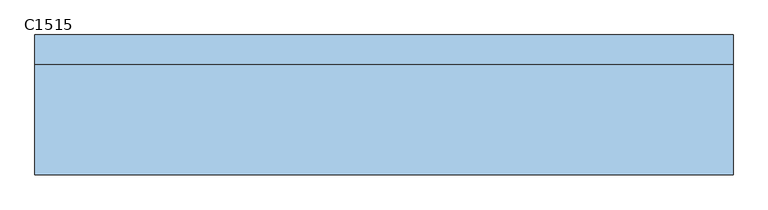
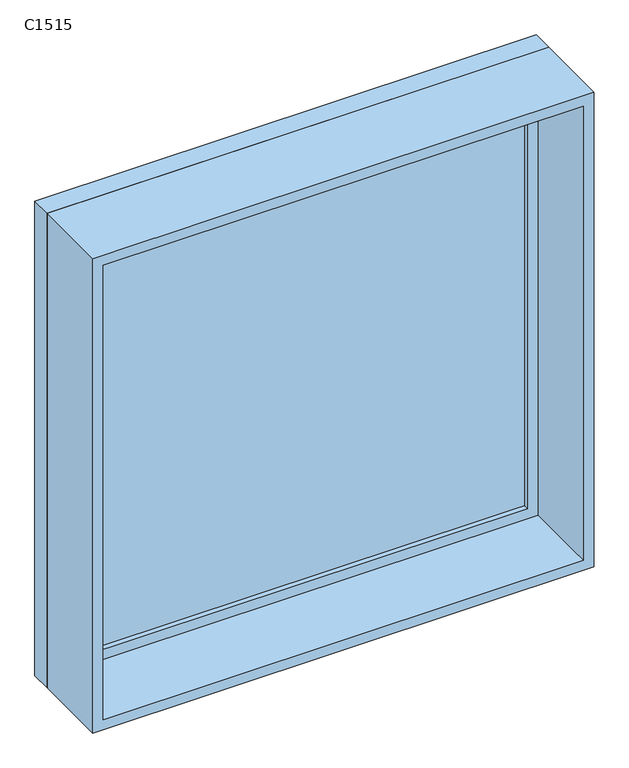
"""IFC4 building model written with IfcOpenShell, lengths in millimetres: window geometry, 固定窗 : C1515."""

from ifc_helpers import new_model, si_unit, frame, origin, place, context, project, spatial, polyline, outline, extrude, source, transform, mapped, element, save


def c1515_7a129a67(model_context):
    return source(origin(), model_context, "Body", "SweptSolid", [
        extrude(outline(polyline([(648.4, 101.425), (-724.6, 101.425), (-724.6, 114.125), (648.4, 114.125), (648.4, 101.425)])), frame((0.0, 0.0, 963.5), z_axis=(0.0, 0.0, 1.0), x_axis=(1.0, 0.0, 0.0)), (0.0, 0.0, 1.0), 1373.0),
        extrude(outline(polyline([(2380.95, -769.05), (919.05, -769.05), (919.05, 692.85), (2380.95, 692.85), (2380.95, -769.05)]), holes=[polyline([(2336.5, -724.6), (2336.5, 648.4), (963.5, 648.4), (963.5, -724.6), (2336.5, -724.6)])]), frame((0.0, 85.55, 0.0), z_axis=(0.0, 1.0, 0.0), x_axis=(0.0, 0.0, 1.0)), (0.0, 0.0, 1.0), 44.45),
        extrude(outline(polyline([(2400.0, -788.1), (900.0, -788.1), (900.0, 711.9), (2400.0, 711.9), (2400.0, -788.1)]), holes=[polyline([(2368.25, -756.35), (2368.25, 680.15), (931.75, 680.15), (931.75, -756.35), (2368.25, -756.35)])]), frame((0.0, -150.0, 0.0), z_axis=(0.0, 1.0, 0.0), x_axis=(0.0, 0.0, 1.0)), (0.0, 0.0, 1.0), 235.55),
        extrude(outline(polyline([(2400.0, 711.9), (2400.0, -788.1), (900.0, -788.1), (900.0, 711.9), (2400.0, 711.9)]), holes=[polyline([(2380.95, 692.85), (919.05, 692.85), (919.05, -769.05), (2380.95, -769.05), (2380.95, 692.85)])]), frame((0.0, 85.55, 0.0), z_axis=(0.0, 1.0, 0.0), x_axis=(0.0, 0.0, 1.0)), (0.0, 0.0, 1.0), 64.45),
    ])


if __name__ == "__main__":
    model = new_model("IFC4")
    model_context = context("Model", 3, world=origin())
    ifc_project = project(units=[si_unit("LENGTHUNIT", "METRE", prefix="MILLI")], contexts=[model_context])
    site = spatial("IfcSite", under=ifc_project)
    building = spatial("IfcBuilding", under=site)
    placement = place(None, origin())
    c1515_shape = c1515_7a129a67(model_context)
    element("IfcWindow", 1, ObjectType="固定窗 : C1515", at=placement, inside=building, context=model_context, shape_type="MappedRepresentation", body=[
        mapped(c1515_shape, transform((0.0, 0.0, 0.0), x_axis=(1.0, 0.0, 0.0), y_axis=(0.0, 1.0, 0.0), z_axis=(0.0, 0.0, 1.0))),
    ])
    save(model, "model.ifc")
